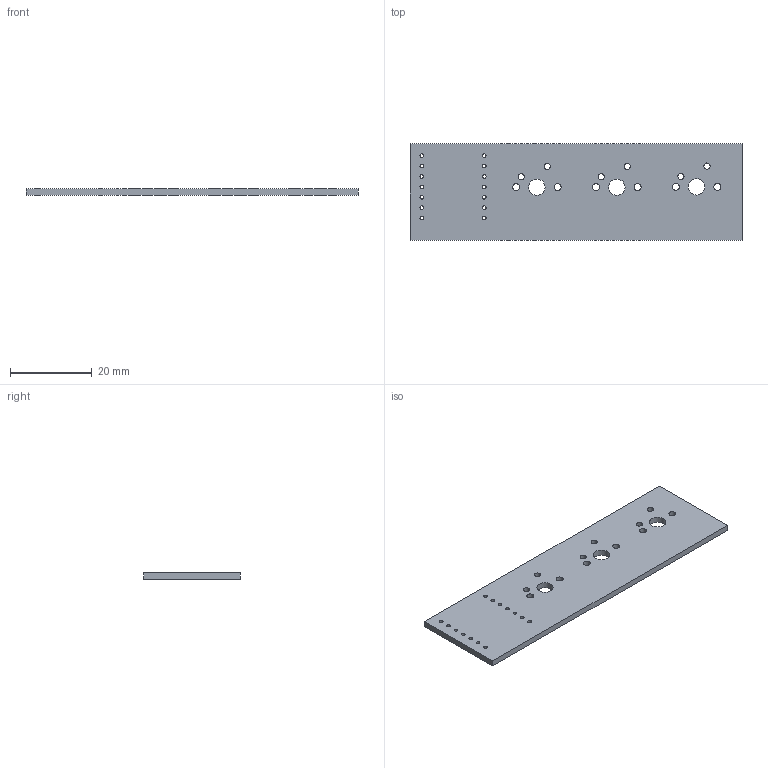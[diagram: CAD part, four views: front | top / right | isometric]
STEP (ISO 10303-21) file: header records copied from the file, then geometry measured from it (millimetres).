
FILE_DESCRIPTION(('KiCad electronic assembly'),'2;1');
FILE_NAME('HackPad.step','2026-03-11T19:01:50',('Pcbnew'),('Kicad'), 'Open CASCADE STEP processor 7.9','KiCad to STEP converter','Unknown' );
FILE_SCHEMA(('AUTOMOTIVE_DESIGN { 1 0 10303 214 1 1 1 1 }'));
Length unit declared in the file: millimetre
Products named in the file (2): HackPad 1; HackPad_PCB
Assembly tree (1 placements, depth 2):
  HackPad 1
    HackPad_PCB
Bounding box: 81 x 23.5 x 1.51 mm (x, y, z)
Volume: 2767.7 mm3; surface area: 4188.4 mm2
Topology: 1 solids, 1 shells, 35 faces, 99 edges, 66 vertices
Faces by surface type: cylinder 29, plane 6
Full cylindrical faces by diameter (mm): 0.889 x14, 1.5 x6, 1.7 x6, 4 x3
Entity records: 1324 total; most frequent: DIRECTION 231, CARTESIAN_POINT 202, ORIENTED_EDGE 198, EDGE_CURVE 99, AXIS2_PLACEMENT_3D 95, FACE_BOUND 93, EDGE_LOOP 93, VERTEX_POINT 66
